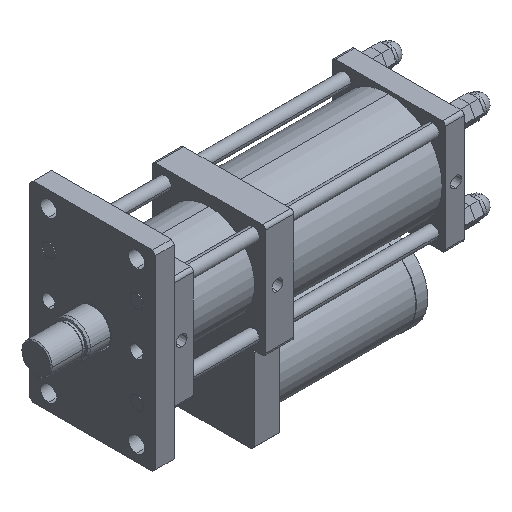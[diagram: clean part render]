
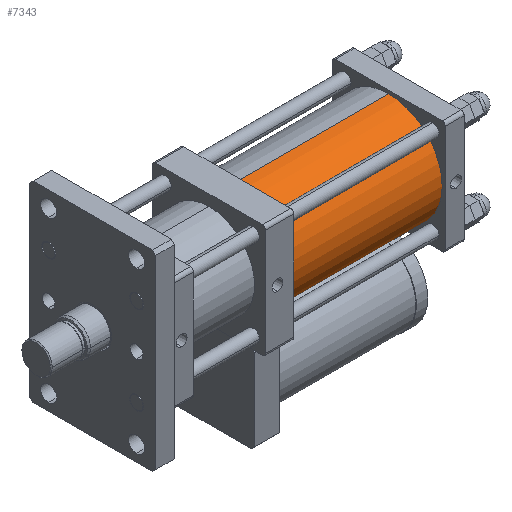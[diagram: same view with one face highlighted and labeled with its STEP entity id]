
A CAD part, isometric view. The second image highlights one B-rep face of the part: STEP entity #7343.
In plain terms, the highlighted cylindrical face has radius 85 mm (diameter 170 mm), a partial arc.
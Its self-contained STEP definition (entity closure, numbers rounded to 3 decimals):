
#563 = LINE ( 'NONE', #4370, #3837 ) ;
#661 = CARTESIAN_POINT ( 'NONE',  ( 561., 0., 0. ) ) ;
#717 = ORIENTED_EDGE ( 'NONE', *, *, #3326, .T. ) ;
#1071 = CYLINDRICAL_SURFACE ( 'NONE', #4825, 85. ) ;
#1211 = CARTESIAN_POINT ( 'NONE',  ( 320., 0., -85. ) ) ;
#2005 = EDGE_CURVE ( 'NONE', #7326, #5365, #7506, .T. ) ;
#2027 = DIRECTION ( 'NONE',  ( 0., 0., -1. ) ) ;
#2214 = ORIENTED_EDGE ( 'NONE', *, *, #2005, .F. ) ;
#2564 = EDGE_CURVE ( 'NONE', #7326, #5316, #6861, .T. ) ;
#2913 = DIRECTION ( 'NONE',  ( 1., 0., 0. ) ) ;
#3326 = EDGE_CURVE ( 'NONE', #5316, #8562, #8737, .T. ) ;
#3685 = DIRECTION ( 'NONE',  ( -1., 0., 0. ) ) ;
#3687 = AXIS2_PLACEMENT_3D ( 'NONE', #3911, #8063, #2027 ) ;
#3837 = VECTOR ( 'NONE', #3685, 1000. ) ;
#3911 = CARTESIAN_POINT ( 'NONE',  ( 320., 0., 0. ) ) ;
#4084 = ORIENTED_EDGE ( 'NONE', *, *, #2564, .T. ) ;
#4128 = DIRECTION ( 'NONE',  ( 0., 0., 1. ) ) ;
#4239 = AXIS2_PLACEMENT_3D ( 'NONE', #7035, #2913, #7730 ) ;
#4370 = CARTESIAN_POINT ( 'NONE',  ( 561., 0., -85. ) ) ;
#4469 = CARTESIAN_POINT ( 'NONE',  ( 561., 0., 85. ) ) ;
#4762 = FACE_OUTER_BOUND ( 'NONE', #7966, .T. ) ;
#4825 = AXIS2_PLACEMENT_3D ( 'NONE', #661, #4830, #4128 ) ;
#4830 = DIRECTION ( 'NONE',  ( -1., 0., 0. ) ) ;
#5174 = DIRECTION ( 'NONE',  ( -1., 0., 0. ) ) ;
#5316 = VERTEX_POINT ( 'NONE', #6866 ) ;
#5365 = VERTEX_POINT ( 'NONE', #5577 ) ;
#5577 = CARTESIAN_POINT ( 'NONE',  ( 561., 0., -85. ) ) ;
#6861 = LINE ( 'NONE', #4469, #8486 ) ;
#6866 = CARTESIAN_POINT ( 'NONE',  ( 320., 0., 85. ) ) ;
#6870 = CARTESIAN_POINT ( 'NONE',  ( 561., 0., 85. ) ) ;
#7035 = CARTESIAN_POINT ( 'NONE',  ( 561., 0., 0. ) ) ;
#7326 = VERTEX_POINT ( 'NONE', #6870 ) ;
#7343 = ADVANCED_FACE ( 'NONE', ( #4762 ), #1071, .T. ) ;
#7506 = CIRCLE ( 'NONE', #4239, 85. ) ;
#7730 = DIRECTION ( 'NONE',  ( 0., 0., -1. ) ) ;
#7966 = EDGE_LOOP ( 'NONE', ( #8920, #2214, #4084, #717 ) ) ;
#8063 = DIRECTION ( 'NONE',  ( 1., 0., 0. ) ) ;
#8228 = EDGE_CURVE ( 'NONE', #5365, #8562, #563, .T. ) ;
#8486 = VECTOR ( 'NONE', #5174, 1000. ) ;
#8562 = VERTEX_POINT ( 'NONE', #1211 ) ;
#8737 = CIRCLE ( 'NONE', #3687, 85. ) ;
#8920 = ORIENTED_EDGE ( 'NONE', *, *, #8228, .F. ) ;
